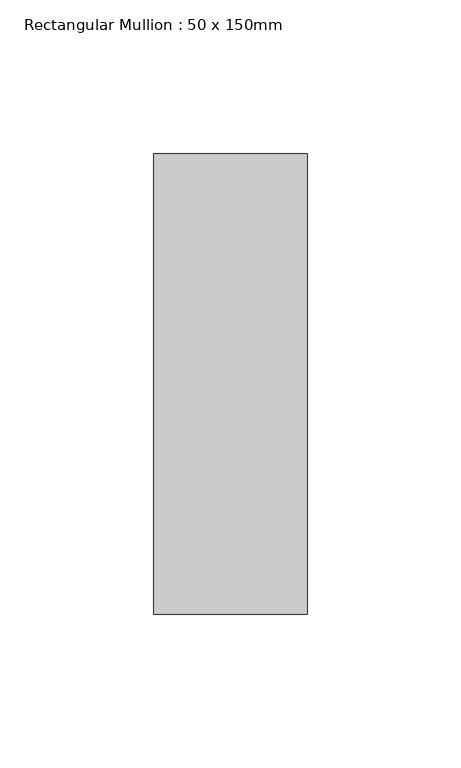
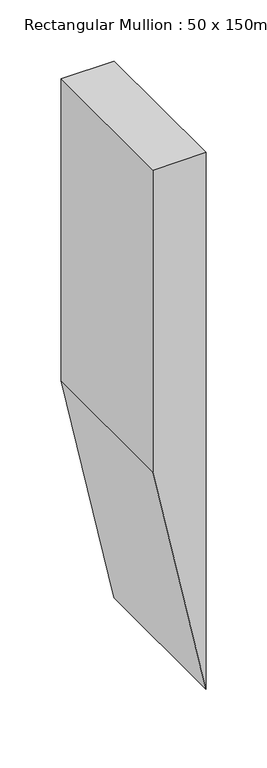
"""IFC4 building model written with IfcOpenShell, lengths in millimetres: member geometry, Rectangular Mullion : 50 x 150mm."""

from ifc_helpers import new_model, si_unit, frame, origin, place, context, project, spatial, polyline, outline, extrude, source, transform, mapped, element, save


def rectangular_mullion_50_x_150mm_b9e57bac(model_context):
    return source(origin(), model_context, "Body", "SweptSolid", [
        extrude(outline(polyline([(0.0, 25.0), (0.0, -25.0), (-301.2496228, -25.0), (-535.0683382, 25.0), (0.0, 25.0)])), frame((0.0, -75.0, 0.0), z_axis=(0.0, 1.0, 0.0), x_axis=(0.0, 0.0, 1.0)), (0.0, 0.0, 1.0), 150.0),
    ])


if __name__ == "__main__":
    model = new_model("IFC4")
    model_context = context("Model", 3, world=origin())
    ifc_project = project(units=[si_unit("LENGTHUNIT", "METRE", prefix="MILLI")], contexts=[model_context])
    site = spatial("IfcSite", under=ifc_project)
    building = spatial("IfcBuilding", under=site)
    placement = place(None, origin())
    rectangular_mullion_50_x_150mm_shape = rectangular_mullion_50_x_150mm_b9e57bac(model_context)
    element("IfcMember", 1, ObjectType="Rectangular Mullion : 50 x 150mm", at=placement, inside=building, context=model_context, shape_type="MappedRepresentation", body=[
        mapped(rectangular_mullion_50_x_150mm_shape, transform((0.0, 0.0, 0.0), x_axis=(1.0, 0.0, 0.0), y_axis=(0.0, 1.0, 0.0), z_axis=(0.0, 0.0, 1.0))),
    ])
    save(model, "model.ifc")
